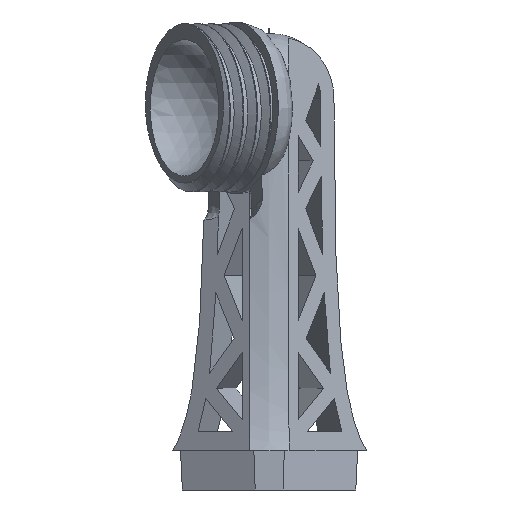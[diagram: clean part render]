
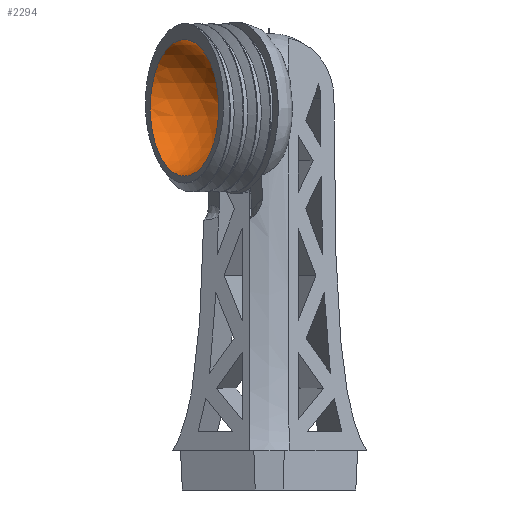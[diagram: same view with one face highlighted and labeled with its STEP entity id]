
A CAD part, left-side view. The second image highlights one B-rep face of the part: STEP entity #2294.
In plain terms, the highlighted spherical face has radius 9 mm.
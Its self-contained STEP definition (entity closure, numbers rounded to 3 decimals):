
#15=SPHERICAL_SURFACE('',#2430,9.);
#25=FACE_BOUND('',#314,.T.);
#190=FACE_OUTER_BOUND('',#313,.T.);
#313=EDGE_LOOP('',(#1784));
#314=EDGE_LOOP('',(#1785));
#440=CIRCLE('',#2429,8.739);
#441=CIRCLE('',#2431,2.52);
#1094=VERTEX_POINT('',#5906);
#1095=VERTEX_POINT('',#5909);
#1363=EDGE_CURVE('',#1094,#1094,#440,.F.);
#1364=EDGE_CURVE('',#1095,#1095,#441,.T.);
#1784=ORIENTED_EDGE('',*,*,#1363,.T.);
#1785=ORIENTED_EDGE('',*,*,#1364,.F.);
#2294=ADVANCED_FACE('',(#190,#25),#15,.F.);
#2429=AXIS2_PLACEMENT_3D('',#5907,#2634,#2635);
#2430=AXIS2_PLACEMENT_3D('',#5908,#2636,#2637);
#2431=AXIS2_PLACEMENT_3D('',#5910,#2638,#2639);
#2634=DIRECTION('center_axis',(0.5,-0.866,0.));
#2635=DIRECTION('ref_axis',(0.,0.,-1.));
#2636=DIRECTION('center_axis',(0.,0.,1.));
#2637=DIRECTION('ref_axis',(1.,0.,0.));
#2638=DIRECTION('center_axis',(-0.5,0.866,0.));
#2639=DIRECTION('ref_axis',(0.866,0.5,0.));
#5906=CARTESIAN_POINT('',(236.255,10.82,67.598));
#5907=CARTESIAN_POINT('Origin',(236.255,10.82,58.859));
#5908=CARTESIAN_POINT('Origin',(235.18,12.682,58.859));
#5909=CARTESIAN_POINT('',(239.5,5.199,61.379));
#5910=CARTESIAN_POINT('Origin',(239.5,5.199,58.859));
